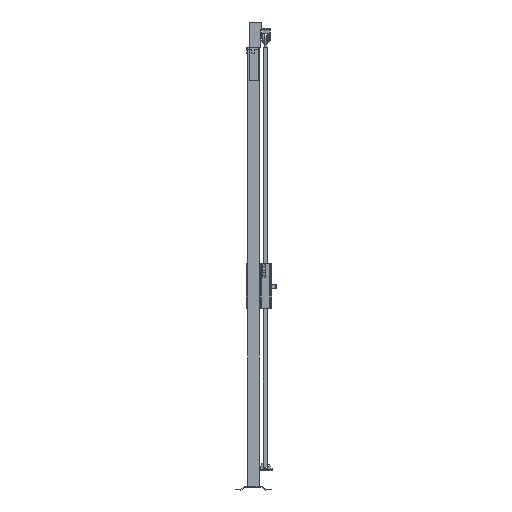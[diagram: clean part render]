
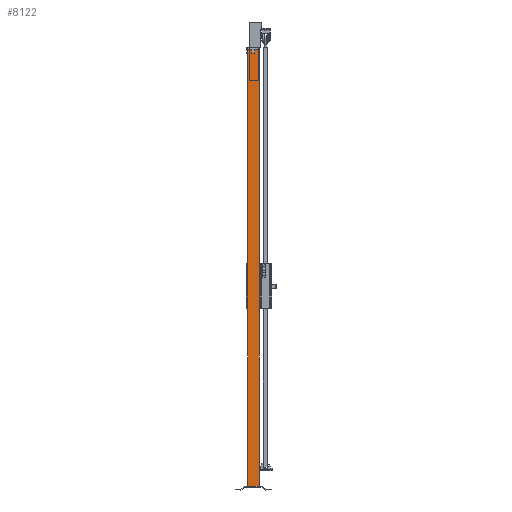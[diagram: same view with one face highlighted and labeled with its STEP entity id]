
A CAD part, left-side view. The second image highlights one B-rep face of the part: STEP entity #8122.
In plain terms, the highlighted planar face has unit normal (-1, 0, 0).
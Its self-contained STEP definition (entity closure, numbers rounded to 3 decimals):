
#837=FACE_OUTER_BOUND('',#1240,.T.);
#1240=EDGE_LOOP('',(#5974,#5975,#5976,#5977));
#1872=LINE('',#12003,#2954);
#1876=LINE('',#12012,#2958);
#1878=LINE('',#12015,#2960);
#1880=LINE('',#12018,#2962);
#2954=VECTOR('',#9502,1.);
#2958=VECTOR('',#9508,1.);
#2960=VECTOR('',#9512,1.);
#2962=VECTOR('',#9516,1.);
#3860=VERTEX_POINT('',#12000);
#3861=VERTEX_POINT('',#12002);
#3864=VERTEX_POINT('',#12009);
#3865=VERTEX_POINT('',#12011);
#4690=EDGE_CURVE('',#3860,#3861,#1872,.T.);
#4694=EDGE_CURVE('',#3864,#3865,#1876,.T.);
#4696=EDGE_CURVE('',#3861,#3864,#1878,.T.);
#4698=EDGE_CURVE('',#3860,#3865,#1880,.T.);
#5974=ORIENTED_EDGE('',*,*,#4698,.T.);
#5975=ORIENTED_EDGE('',*,*,#4694,.F.);
#5976=ORIENTED_EDGE('',*,*,#4696,.F.);
#5977=ORIENTED_EDGE('',*,*,#4690,.F.);
#7764=PLANE('',#8570);
#8122=ADVANCED_FACE('',(#837),#7764,.F.);
#8570=AXIS2_PLACEMENT_3D('',#12017,#9514,#9515);
#9502=DIRECTION('',(0.,-1.,0.));
#9508=DIRECTION('',(0.,1.,0.));
#9512=DIRECTION('',(0.,0.,-1.));
#9514=DIRECTION('center_axis',(1.,0.,0.));
#9515=DIRECTION('ref_axis',(0.,0.,-1.));
#9516=DIRECTION('',(0.,0.,-1.));
#12000=CARTESIAN_POINT('',(-30.,30.,2320.));
#12002=CARTESIAN_POINT('',(-30.,-30.,2320.));
#12003=CARTESIAN_POINT('',(-30.,0.,2320.));
#12009=CARTESIAN_POINT('',(-30.,-30.,20.));
#12011=CARTESIAN_POINT('',(-30.,30.,20.));
#12012=CARTESIAN_POINT('',(-30.,0.,20.));
#12015=CARTESIAN_POINT('',(-30.,-30.,1170.));
#12017=CARTESIAN_POINT('Origin',(-30.,0.,
1170.));
#12018=CARTESIAN_POINT('',(-30.,30.,1170.));
